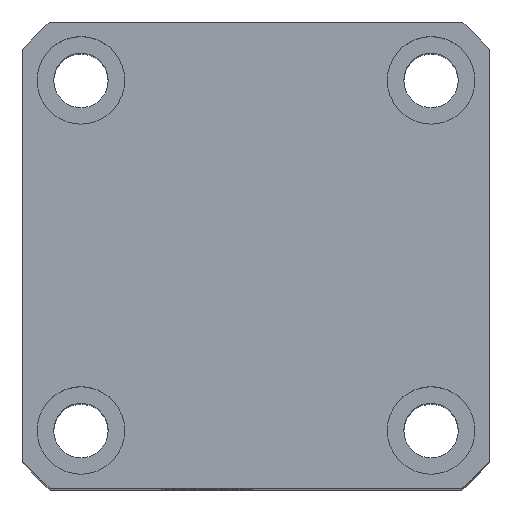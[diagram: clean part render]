
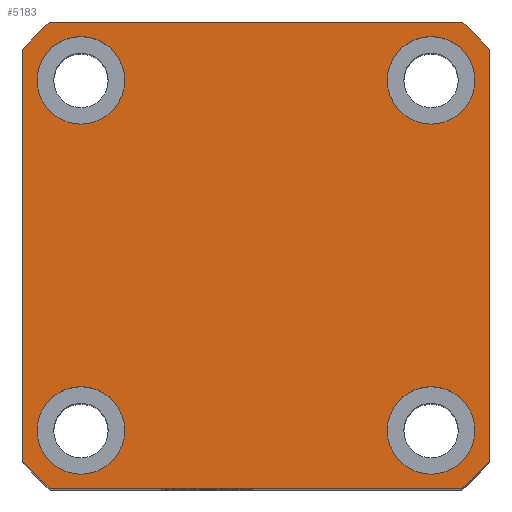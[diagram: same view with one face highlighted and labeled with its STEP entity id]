
A CAD part, top view. The second image highlights one B-rep face of the part: STEP entity #5183.
In plain terms, the highlighted planar face has unit normal (0, 0, 1).
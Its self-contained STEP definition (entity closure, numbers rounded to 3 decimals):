
#2546=PLANE('',#10463);
#2813=LINE('',#14713,#3578);
#2817=LINE('',#14941,#3582);
#2821=LINE('',#14950,#3586);
#2825=LINE('',#14959,#3590);
#3578=VECTOR('',#10890,1.);
#3582=VECTOR('',#11012,1.);
#3586=VECTOR('',#11018,1.);
#3590=VECTOR('',#11024,1.);
#5183=ADVANCED_FACE('',(#5685,#5686,#5687,#5688,#5689),#2546,.T.);
#5685=FACE_BOUND('',#5868,.T.);
#5686=FACE_BOUND('',#5869,.T.);
#5687=FACE_BOUND('',#5870,.T.);
#5688=FACE_BOUND('',#5871,.T.);
#5689=FACE_BOUND('',#5872,.T.);
#5868=EDGE_LOOP('',(#6472));
#5869=EDGE_LOOP('',(#6473));
#5870=EDGE_LOOP('',(#6474));
#5871=EDGE_LOOP('',(#6475));
#5872=EDGE_LOOP('',(#6476,#6477,#6478,#6479,#6480,#6481,#6482,#6483));
#6472=ORIENTED_EDGE('',*,*,#9261,.F.);
#6473=ORIENTED_EDGE('',*,*,#9263,.F.);
#6474=ORIENTED_EDGE('',*,*,#9265,.F.);
#6475=ORIENTED_EDGE('',*,*,#9267,.F.);
#6476=ORIENTED_EDGE('',*,*,#9238,.T.);
#6477=ORIENTED_EDGE('',*,*,#9293,.T.);
#6478=ORIENTED_EDGE('',*,*,#9282,.T.);
#6479=ORIENTED_EDGE('',*,*,#9294,.T.);
#6480=ORIENTED_EDGE('',*,*,#9286,.T.);
#6481=ORIENTED_EDGE('',*,*,#9295,.T.);
#6482=ORIENTED_EDGE('',*,*,#9290,.T.);
#6483=ORIENTED_EDGE('',*,*,#9296,.T.);
#8485=VERTEX_POINT('',#14711);
#8487=VERTEX_POINT('',#14714);
#8509=VERTEX_POINT('',#14890);
#8511=VERTEX_POINT('',#14895);
#8513=VERTEX_POINT('',#14900);
#8515=VERTEX_POINT('',#14905);
#8528=VERTEX_POINT('',#14939);
#8530=VERTEX_POINT('',#14942);
#8532=VERTEX_POINT('',#14948);
#8534=VERTEX_POINT('',#14951);
#8536=VERTEX_POINT('',#14957);
#8538=VERTEX_POINT('',#14960);
#9238=EDGE_CURVE('',#8487,#8485,#2813,.T.);
#9261=EDGE_CURVE('',#8509,#8509,#10292,.T.);
#9263=EDGE_CURVE('',#8511,#8511,#10294,.T.);
#9265=EDGE_CURVE('',#8513,#8513,#10296,.T.);
#9267=EDGE_CURVE('',#8515,#8515,#10298,.T.);
#9282=EDGE_CURVE('',#8530,#8528,#2817,.T.);
#9286=EDGE_CURVE('',#8534,#8532,#2821,.T.);
#9290=EDGE_CURVE('',#8538,#8536,#2825,.T.);
#9293=EDGE_CURVE('',#8485,#8530,#10312,.T.);
#9294=EDGE_CURVE('',#8528,#8534,#10313,.T.);
#9295=EDGE_CURVE('',#8532,#8538,#10314,.T.);
#9296=EDGE_CURVE('',#8536,#8487,#10315,.T.);
#10292=CIRCLE('',#10426,4.5);
#10294=CIRCLE('',#10429,4.5);
#10296=CIRCLE('',#10432,4.5);
#10298=CIRCLE('',#10435,4.5);
#10312=CIRCLE('',#10459,32.);
#10313=CIRCLE('',#10460,32.);
#10314=CIRCLE('',#10461,32.);
#10315=CIRCLE('',#10462,32.);
#10426=AXIS2_PLACEMENT_3D('',#14889,#10951,#10952);
#10429=AXIS2_PLACEMENT_3D('',#14894,#10957,#10958);
#10432=AXIS2_PLACEMENT_3D('',#14899,#10963,#10964);
#10435=AXIS2_PLACEMENT_3D('',#14904,#10969,#10970);
#10459=AXIS2_PLACEMENT_3D('',#14965,#11029,#11030);
#10460=AXIS2_PLACEMENT_3D('',#14966,#11031,#11032);
#10461=AXIS2_PLACEMENT_3D('',#14967,#11033,#11034);
#10462=AXIS2_PLACEMENT_3D('',#14968,#11035,#11036);
#10463=AXIS2_PLACEMENT_3D('',#14969,#11037,#11038);
#10890=DIRECTION('',(-1.,0.,0.));
#10951=DIRECTION('',(0.,0.,1.));
#10952=DIRECTION('',(0.,1.,0.));
#10957=DIRECTION('',(0.,0.,1.));
#10958=DIRECTION('',(0.,1.,0.));
#10963=DIRECTION('',(0.,0.,1.));
#10964=DIRECTION('',(0.,1.,0.));
#10969=DIRECTION('',(0.,0.,1.));
#10970=DIRECTION('',(0.,1.,0.));
#11012=DIRECTION('',(0.,-1.,0.));
#11018=DIRECTION('',(1.,0.,0.));
#11024=DIRECTION('',(0.,1.,0.));
#11029=DIRECTION('',(0.,0.,1.));
#11030=DIRECTION('',(0.,1.,0.));
#11031=DIRECTION('',(0.,0.,1.));
#11032=DIRECTION('',(0.,1.,0.));
#11033=DIRECTION('',(0.,0.,1.));
#11034=DIRECTION('',(0.,1.,0.));
#11035=DIRECTION('',(0.,0.,1.));
#11036=DIRECTION('',(0.,1.,0.));
#11037=DIRECTION('',(0.,0.,1.));
#11038=DIRECTION('',(0.,-1.,0.));
#14711=CARTESIAN_POINT('',(-98.705,39.866,90.045));
#14713=CARTESIAN_POINT('',(-101.539,39.866,90.045));
#14714=CARTESIAN_POINT('',(-56.373,39.866,90.045));
#14889=CARTESIAN_POINT('',(-59.539,33.866,90.045));
#14890=CARTESIAN_POINT('',(-59.539,38.366,90.045));
#14894=CARTESIAN_POINT('',(-59.539,-2.134,90.045));
#14895=CARTESIAN_POINT('',(-59.539,2.366,90.045));
#14899=CARTESIAN_POINT('',(-95.539,33.866,90.045));
#14900=CARTESIAN_POINT('',(-95.539,38.366,90.045));
#14904=CARTESIAN_POINT('',(-95.539,-2.134,90.045));
#14905=CARTESIAN_POINT('',(-95.539,2.366,90.045));
#14939=CARTESIAN_POINT('',(-101.539,-5.3,90.045));
#14941=CARTESIAN_POINT('',(-101.539,-8.134,90.045));
#14942=CARTESIAN_POINT('',(-101.539,37.032,90.045));
#14948=CARTESIAN_POINT('',(-56.373,-8.134,90.045));
#14950=CARTESIAN_POINT('',(-101.539,-8.134,90.045));
#14951=CARTESIAN_POINT('',(-98.705,-8.134,90.045));
#14957=CARTESIAN_POINT('',(-53.539,37.032,90.045));
#14959=CARTESIAN_POINT('',(-53.539,-8.134,90.045));
#14960=CARTESIAN_POINT('',(-53.539,-5.3,90.045));
#14965=CARTESIAN_POINT('',(-77.539,15.866,90.045));
#14966=CARTESIAN_POINT('',(-77.539,15.866,90.045));
#14967=CARTESIAN_POINT('',(-77.539,15.866,90.045));
#14968=CARTESIAN_POINT('',(-77.539,15.866,90.045));
#14969=CARTESIAN_POINT('',(-77.539,15.866,90.045));
